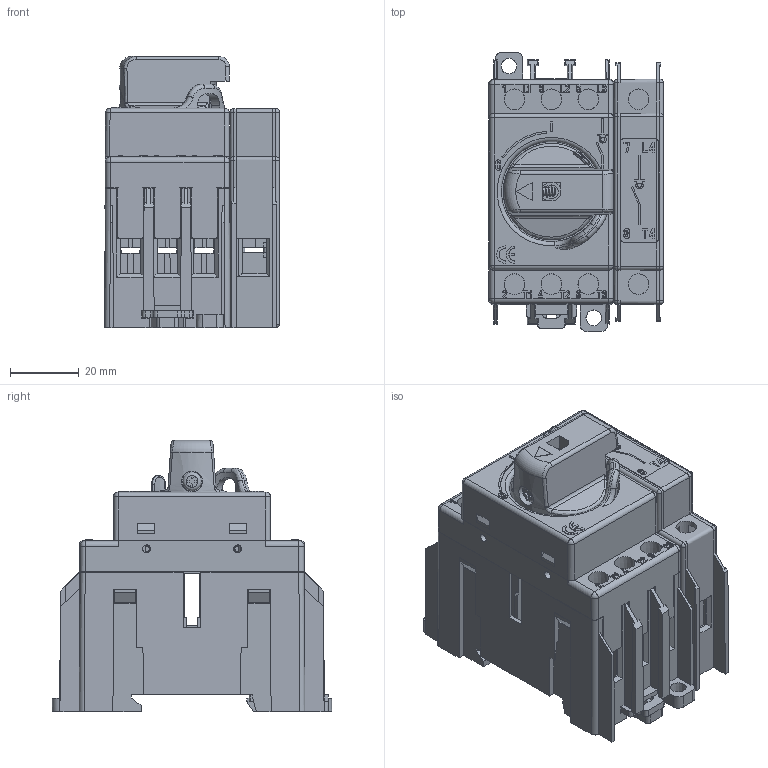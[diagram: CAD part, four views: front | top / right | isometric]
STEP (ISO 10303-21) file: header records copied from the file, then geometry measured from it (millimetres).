
FILE_DESCRIPTION((''),'2;1');
FILE_NAME('Z:\PROGETTI INVENTOR\DIEGO\4 COMMERCIALE - PRODUZIONE - INFORMATIVA\MATERIALE DI COSTRUZIONE\BLOCCHI SOLIDI 2013\BLOCCHI SOLIDI SD1\BLOCCO SD1 4P 2013.stp','2013-02-19T15:37:59',('diego'),(''),'Autodesk Inventor 2013','Autodesk Inventor 2013','');
FILE_SCHEMA(('AUTOMOTIVE_DESIGN { 1 0 10303 214 1 1 1 1 }'));
Length unit declared in the file: millimetre
Products named in the file (1): BLOCCO SD1 4P 2013
Bounding box: 50.7 x 81 x 78.85 mm (x, y, z)
Volume: 67753.1 mm3; surface area: 98154.9 mm2
Topology: 2 solids, 2 shells, 2220 faces, 6418 edges, 4171 vertices
Faces by surface type: plane 1754, cylinder 307, cone 82, bspline 42, sphere 24, torus 11
Full cylindrical faces by diameter (mm): 0.6 x1, 1.2 x2, 2.3 x14, 3.1 x2, 5.4 x3, 6 x5, 8 x2, 10 x2, 12.7 x1, 15.2 x1, 16.1 x1, 24 x1
Entity records: 77925 total; most frequent: CARTESIAN_POINT 18244, ORIENTED_EDGE 12526, DIRECTION 11151, EDGE_CURVE 6263, VECTOR 5167, LINE 5167, VERTEX_POINT 4122, AXIS2_PLACEMENT_3D 2992
